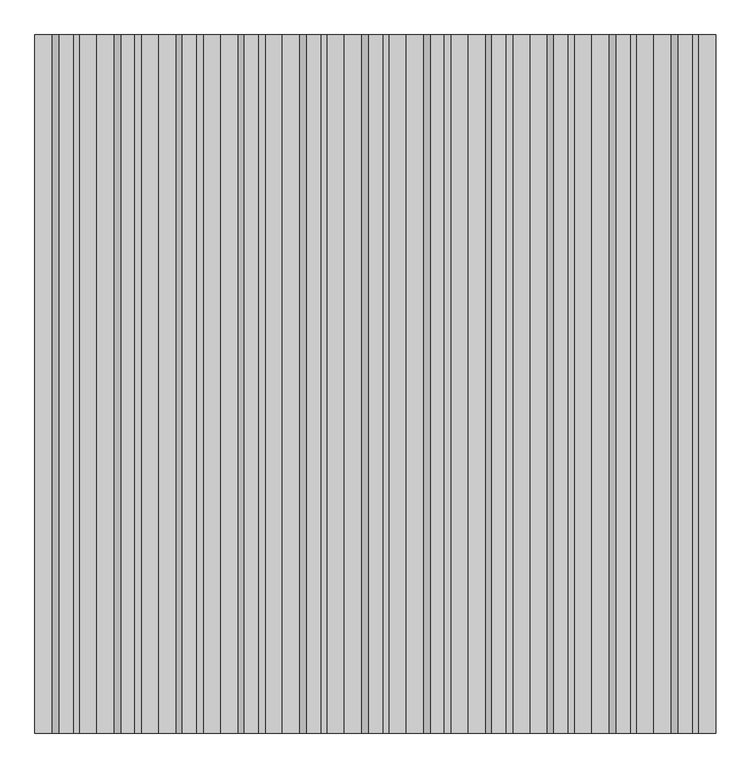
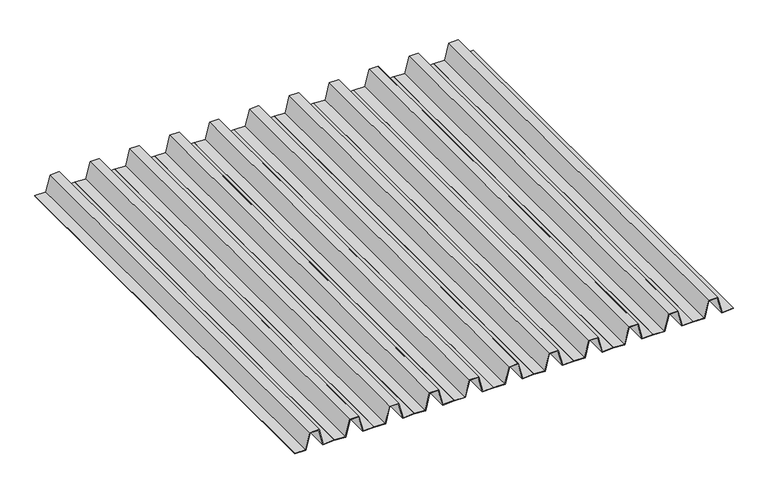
"""IFC4 building model written with IfcOpenShell, lengths in millimetres: proxy geometry, Renson_Amani_Fixed_Roof : Renson_Amani_Fixed_Roof."""

from ifc_helpers import new_model, si_unit, frame, origin, place, context, project, spatial, polyline, outline, extrude, source, transform, mapped, element, save


def generic_models_97cd0588(model_context):
    return source(origin(), model_context, "Body", "SweptSolid", [
        extrude(outline(polyline([(2416.1350727, 2500.0), (2413.1322147, 2500.0), (2410.0, 2571.7403502), (2516.0797384, 2598.1893092), (2516.0797384, 2651.8176159), (2410.0, 2678.2596498), (2413.1322147, 2750.0), (2416.1350727, 2750.0), (2413.1040587, 2680.577555), (2519.0797384, 2654.1614661), (2519.0797384, 2595.845459), (2413.1040587, 2569.422445), (2416.1350727, 2500.0)])), frame((0.0, 0.0, 0.0), z_axis=(0.0, 1.0, 0.0), x_axis=(0.0, 0.0, 1.0)), (0.0, 0.0, 1.0), 2820.0),
        extrude(outline(polyline([(2416.1350727, 2250.0), (2413.1322147, 2250.0), (2410.0, 2321.7403502), (2516.0797384, 2348.1893092), (2516.0797384, 2401.8176159), (2410.0, 2428.2596498), (2413.1322147, 2500.0), (2416.1350727, 2500.0), (2413.1040587, 2430.577555), (2519.0797384, 2404.1614661), (2519.0797384, 2345.845459), (2413.1040587, 2319.422445), (2416.1350727, 2250.0)])), frame((0.0, 0.0, 0.0), z_axis=(0.0, 1.0, 0.0), x_axis=(0.0, 0.0, 1.0)), (0.0, 0.0, 1.0), 2820.0),
        extrude(outline(polyline([(2416.1350727, 2000.0), (2413.1322147, 2000.0), (2410.0, 2071.7403502), (2516.0797384, 2098.1893092), (2516.0797384, 2151.8176159), (2410.0, 2178.2596498), (2413.1322147, 2250.0), (2416.1350727, 2250.0), (2413.1040587, 2180.577555), (2519.0797384, 2154.1614661), (2519.0797384, 2095.845459), (2413.1040587, 2069.422445), (2416.1350727, 2000.0)])), frame((0.0, 0.0, 0.0), z_axis=(0.0, 1.0, 0.0), x_axis=(0.0, 0.0, 1.0)), (0.0, 0.0, 1.0), 2820.0),
        extrude(outline(polyline([(2416.1350727, 1750.0), (2413.1322147, 1750.0), (2410.0, 1821.7403502), (2516.0797384, 1848.1893092), (2516.0797384, 1901.8176159), (2410.0, 1928.2596498), (2413.1322147, 2000.0), (2416.1350727, 2000.0), (2413.1040587, 1930.577555), (2519.0797384, 1904.1614661), (2519.0797384, 1845.845459), (2413.1040587, 1819.422445), (2416.1350727, 1750.0)])), frame((0.0, 0.0, 0.0), z_axis=(0.0, 1.0, 0.0), x_axis=(0.0, 0.0, 1.0)), (0.0, 0.0, 1.0), 2820.0),
        extrude(outline(polyline([(2416.1350727, 1500.0), (2413.1322147, 1500.0), (2410.0, 1571.7403502), (2516.0797384, 1598.1893092), (2516.0797384, 1651.8176159), (2410.0, 1678.2596498), (2413.1322147, 1750.0), (2416.1350727, 1750.0), (2413.1040587, 1680.577555), (2519.0797384, 1654.1614661), (2519.0797384, 1595.845459), (2413.1040587, 1569.422445), (2416.1350727, 1500.0)])), frame((0.0, 0.0, 0.0), z_axis=(0.0, 1.0, 0.0), x_axis=(0.0, 0.0, 1.0)), (0.0, 0.0, 1.0), 2820.0),
        extrude(outline(polyline([(2416.1350727, 1250.0), (2413.1322147, 1250.0), (2410.0, 1321.7403502), (2516.0797384, 1348.1893092), (2516.0797384, 1401.8176159), (2410.0, 1428.2596498), (2413.1322147, 1500.0), (2416.1350727, 1500.0), (2413.1040587, 1430.577555), (2519.0797384, 1404.1614661), (2519.0797384, 1345.845459), (2413.1040587, 1319.422445), (2416.1350727, 1250.0)])), frame((0.0, 0.0, 0.0), z_axis=(0.0, 1.0, 0.0), x_axis=(0.0, 0.0, 1.0)), (0.0, 0.0, 1.0), 2820.0),
        extrude(outline(polyline([(2416.1350727, 1000.0), (2413.1322147, 1000.0), (2410.0, 1071.7403502), (2516.0797384, 1098.1893092), (2516.0797384, 1151.8176159), (2410.0, 1178.2596498), (2413.1322147, 1250.0), (2416.1350727, 1250.0), (2413.1040587, 1180.577555), (2519.0797384, 1154.1614661), (2519.0797384, 1095.845459), (2413.1040587, 1069.422445), (2416.1350727, 1000.0)])), frame((0.0, 0.0, 0.0), z_axis=(0.0, 1.0, 0.0), x_axis=(0.0, 0.0, 1.0)), (0.0, 0.0, 1.0), 2820.0),
        extrude(outline(polyline([(2416.1350727, 750.0), (2413.1322147, 750.0), (2410.0, 821.7403502), (2516.0797384, 848.1893092), (2516.0797384, 901.8176159), (2410.0, 928.2596498), (2413.1322147, 1000.0), (2416.1350727, 1000.0), (2413.1040587, 930.577555), (2519.0797384, 904.1614661), (2519.0797384, 845.845459), (2413.1040587, 819.422445), (2416.1350727, 750.0)])), frame((0.0, 0.0, 0.0), z_axis=(0.0, 1.0, 0.0), x_axis=(0.0, 0.0, 1.0)), (0.0, 0.0, 1.0), 2820.0),
        extrude(outline(polyline([(2416.1350727, 500.0), (2413.1322147, 500.0), (2410.0, 571.7403502), (2516.0797384, 598.1893092), (2516.0797384, 651.8176159), (2410.0, 678.2596498), (2413.1322147, 750.0), (2416.1350727, 750.0), (2413.1040587, 680.577555), (2519.0797384, 654.1614661), (2519.0797384, 595.845459), (2413.1040587, 569.422445), (2416.1350727, 500.0)])), frame((0.0, 0.0, 0.0), z_axis=(0.0, 1.0, 0.0), x_axis=(0.0, 0.0, 1.0)), (0.0, 0.0, 1.0), 2820.0),
        extrude(outline(polyline([(2416.1350727, 250.0), (2413.1322147, 250.0), (2410.0, 321.7403502), (2516.0797384, 348.1893092), (2516.0797384, 401.8176159), (2410.0, 428.2596498), (2413.1322147, 500.0), (2416.1350727, 500.0), (2413.1040587, 430.577555), (2519.0797384, 404.1614661), (2519.0797384, 345.845459), (2413.1040587, 319.422445), (2416.1350727, 250.0)])), frame((0.0, 0.0, 0.0), z_axis=(0.0, 1.0, 0.0), x_axis=(0.0, 0.0, 1.0)), (0.0, 0.0, 1.0), 2820.0),
        extrude(outline(polyline([(2416.1350727, 0.0), (2413.1322147, 0.0), (2410.0, 71.7403502), (2516.0797384, 98.1893092), (2516.0797384, 151.8176159), (2410.0, 178.2596498), (2413.1322147, 250.0), (2416.1350727, 250.0), (2413.1040587, 180.577555), (2519.0797384, 154.1614661), (2519.0797384, 95.845459), (2413.1040587, 69.422445), (2416.1350727, 0.0)])), frame((0.0, 0.0, 0.0), z_axis=(0.0, 1.0, 0.0), x_axis=(0.0, 0.0, 1.0)), (0.0, 0.0, 1.0), 2820.0),
    ])


if __name__ == "__main__":
    model = new_model("IFC4")
    model_context = context("Model", 3, world=origin())
    ifc_project = project(units=[si_unit("LENGTHUNIT", "METRE", prefix="MILLI")], contexts=[model_context])
    site = spatial("IfcSite", under=ifc_project)
    building = spatial("IfcBuilding", under=site)
    placement = place(None, origin())
    generic_models_shape = generic_models_97cd0588(model_context)
    element("IfcBuildingElementProxy", 1, Name="Renson_Amani_Fixed_Roof : Renson_Amani_Fixed_Roof", ObjectType="Renson_Amani_Fixed_Roof : Renson_Amani_Fixed_Roof", at=placement, inside=building, context=model_context, shape_type="MappedRepresentation", body=[
        mapped(generic_models_shape, transform((0.0, 0.0, 0.0), x_axis=(1.0, 0.0, 0.0), y_axis=(0.0, 1.0, 0.0), z_axis=(0.0, 0.0, 1.0))),
    ])
    save(model, "model.ifc")
